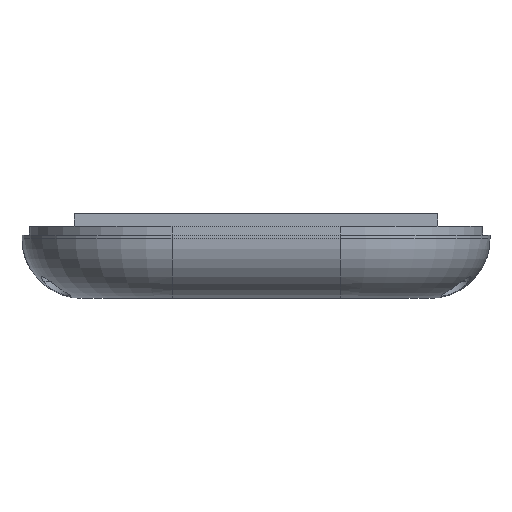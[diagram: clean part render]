
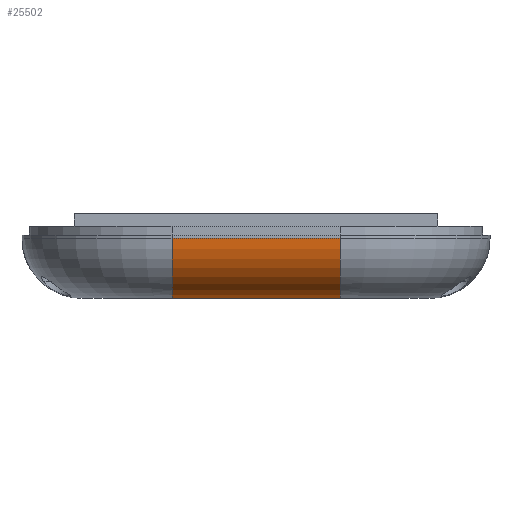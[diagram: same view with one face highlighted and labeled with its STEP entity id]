
A CAD part, front view. The second image highlights one B-rep face of the part: STEP entity #25502.
In plain terms, the highlighted cylindrical face has radius 10 mm (diameter 20 mm), a partial arc.
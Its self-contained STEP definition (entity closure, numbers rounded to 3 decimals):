
#107 = TOROIDAL_SURFACE('',#108,15.,10.);
#108 = AXIS2_PLACEMENT_3D('',#109,#110,#111);
#109 = CARTESIAN_POINT('',(-14.,-50.,-14.));
#110 = DIRECTION('',(0.,0.,-1.));
#111 = DIRECTION('',(-1.,0.,0.));
#1541 = VERTEX_POINT('',#1542);
#1542 = CARTESIAN_POINT('',(-14.,-65.,-24.));
#1557 = PLANE('',#1558);
#1558 = AXIS2_PLACEMENT_3D('',#1559,#1560,#1561);
#1559 = CARTESIAN_POINT('',(0.,0.,-24.));
#1560 = DIRECTION('',(0.,0.,-1.));
#1561 = DIRECTION('',(-1.,0.,0.));
#1573 = EDGE_CURVE('',#1574,#1541,#1576,.T.);
#1574 = VERTEX_POINT('',#1575);
#1575 = CARTESIAN_POINT('',(-14.,-75.,-14.));
#1576 = SURFACE_CURVE('',#1577,(#1582,#1589),.PCURVE_S1.);
#1577 = CIRCLE('',#1578,10.);
#1578 = AXIS2_PLACEMENT_3D('',#1579,#1580,#1581);
#1579 = CARTESIAN_POINT('',(-14.,-65.,-14.));
#1580 = DIRECTION('',(1.,0.,0.));
#1581 = DIRECTION('',(0.,-1.,0.));
#1582 = PCURVE('',#107,#1583);
#1583 = DEFINITIONAL_REPRESENTATION('',(#1584),#1588);
#1584 = LINE('',#1585,#1586);
#1585 = CARTESIAN_POINT('',(4.712,0.));
#1586 = VECTOR('',#1587,1.);
#1587 = DIRECTION('',(0.,1.));
#1588 = ( GEOMETRIC_REPRESENTATION_CONTEXT(2) 
PARAMETRIC_REPRESENTATION_CONTEXT() REPRESENTATION_CONTEXT('2D SPACE',''
  ) );
#1589 = PCURVE('',#1590,#1595);
#1590 = CYLINDRICAL_SURFACE('',#1591,10.);
#1591 = AXIS2_PLACEMENT_3D('',#1592,#1593,#1594);
#1592 = CARTESIAN_POINT('',(7.,-65.,-14.));
#1593 = DIRECTION('',(-1.,0.,0.));
#1594 = DIRECTION('',(-0.,-0.707,-0.707));
#1595 = DEFINITIONAL_REPRESENTATION('',(#1596),#1600);
#1596 = LINE('',#1597,#1598);
#1597 = CARTESIAN_POINT('',(7.069,21.));
#1598 = VECTOR('',#1599,1.);
#1599 = DIRECTION('',(-1.,0.));
#1600 = ( GEOMETRIC_REPRESENTATION_CONTEXT(2) 
PARAMETRIC_REPRESENTATION_CONTEXT() REPRESENTATION_CONTEXT('2D SPACE',''
  ) );
#8598 = VERTEX_POINT('',#8599);
#8599 = CARTESIAN_POINT('',(14.,-65.,-24.));
#8618 = TOROIDAL_SURFACE('',#8619,15.,10.);
#8619 = AXIS2_PLACEMENT_3D('',#8620,#8621,#8622);
#8620 = CARTESIAN_POINT('',(14.,-50.,-14.));
#8621 = DIRECTION('',(0.,0.,-1.));
#8622 = DIRECTION('',(-1.,0.,0.));
#8630 = EDGE_CURVE('',#1541,#8598,#8631,.T.);
#8631 = SURFACE_CURVE('',#8632,(#8636,#8643),.PCURVE_S1.);
#8632 = LINE('',#8633,#8634);
#8633 = CARTESIAN_POINT('',(7.,-65.,-24.));
#8634 = VECTOR('',#8635,1.);
#8635 = DIRECTION('',(1.,0.,0.));
#8636 = PCURVE('',#1557,#8637);
#8637 = DEFINITIONAL_REPRESENTATION('',(#8638),#8642);
#8638 = LINE('',#8639,#8640);
#8639 = CARTESIAN_POINT('',(-7.,-65.));
#8640 = VECTOR('',#8641,1.);
#8641 = DIRECTION('',(-1.,0.));
#8642 = ( GEOMETRIC_REPRESENTATION_CONTEXT(2) 
PARAMETRIC_REPRESENTATION_CONTEXT() REPRESENTATION_CONTEXT('2D SPACE',''
  ) );
#8643 = PCURVE('',#1590,#8644);
#8644 = DEFINITIONAL_REPRESENTATION('',(#8645),#8649);
#8645 = LINE('',#8646,#8647);
#8646 = CARTESIAN_POINT('',(5.498,0.));
#8647 = VECTOR('',#8648,1.);
#8648 = DIRECTION('',(0.,-1.));
#8649 = ( GEOMETRIC_REPRESENTATION_CONTEXT(2) 
PARAMETRIC_REPRESENTATION_CONTEXT() REPRESENTATION_CONTEXT('2D SPACE',''
  ) );
#25502 = ADVANCED_FACE('',(#25503),#1590,.T.);
#25503 = FACE_BOUND('',#25504,.T.);
#25504 = EDGE_LOOP('',(#25505,#25506,#25507,#25531));
#25505 = ORIENTED_EDGE('',*,*,#1573,.T.);
#25506 = ORIENTED_EDGE('',*,*,#8630,.T.);
#25507 = ORIENTED_EDGE('',*,*,#25508,.F.);
#25508 = EDGE_CURVE('',#25509,#8598,#25511,.T.);
#25509 = VERTEX_POINT('',#25510);
#25510 = CARTESIAN_POINT('',(14.,-75.,-14.));
#25511 = SURFACE_CURVE('',#25512,(#25517,#25524),.PCURVE_S1.);
#25512 = CIRCLE('',#25513,10.);
#25513 = AXIS2_PLACEMENT_3D('',#25514,#25515,#25516);
#25514 = CARTESIAN_POINT('',(14.,-65.,-14.));
#25515 = DIRECTION('',(1.,0.,0.));
#25516 = DIRECTION('',(0.,-1.,-0.));
#25517 = PCURVE('',#1590,#25518);
#25518 = DEFINITIONAL_REPRESENTATION('',(#25519),#25523);
#25519 = LINE('',#25520,#25521);
#25520 = CARTESIAN_POINT('',(7.069,-7.));
#25521 = VECTOR('',#25522,1.);
#25522 = DIRECTION('',(-1.,0.));
#25523 = ( GEOMETRIC_REPRESENTATION_CONTEXT(2) 
PARAMETRIC_REPRESENTATION_CONTEXT() REPRESENTATION_CONTEXT('2D SPACE',''
  ) );
#25524 = PCURVE('',#8618,#25525);
#25525 = DEFINITIONAL_REPRESENTATION('',(#25526),#25530);
#25526 = LINE('',#25527,#25528);
#25527 = CARTESIAN_POINT('',(4.712,0.));
#25528 = VECTOR('',#25529,1.);
#25529 = DIRECTION('',(0.,1.));
#25530 = ( GEOMETRIC_REPRESENTATION_CONTEXT(2) 
PARAMETRIC_REPRESENTATION_CONTEXT() REPRESENTATION_CONTEXT('2D SPACE',''
  ) );
#25531 = ORIENTED_EDGE('',*,*,#25532,.T.);
#25532 = EDGE_CURVE('',#25509,#1574,#25533,.T.);
#25533 = SURFACE_CURVE('',#25534,(#25538,#25545),.PCURVE_S1.);
#25534 = LINE('',#25535,#25536);
#25535 = CARTESIAN_POINT('',(7.,-75.,-14.));
#25536 = VECTOR('',#25537,1.);
#25537 = DIRECTION('',(-1.,0.,0.));
#25538 = PCURVE('',#1590,#25539);
#25539 = DEFINITIONAL_REPRESENTATION('',(#25540),#25544);
#25540 = LINE('',#25541,#25542);
#25541 = CARTESIAN_POINT('',(7.069,0.));
#25542 = VECTOR('',#25543,1.);
#25543 = DIRECTION('',(0.,1.));
#25544 = ( GEOMETRIC_REPRESENTATION_CONTEXT(2) 
PARAMETRIC_REPRESENTATION_CONTEXT() REPRESENTATION_CONTEXT('2D SPACE',''
  ) );
#25545 = PCURVE('',#25546,#25551);
#25546 = PLANE('',#25547);
#25547 = AXIS2_PLACEMENT_3D('',#25548,#25549,#25550);
#25548 = CARTESIAN_POINT('',(14.,-75.,-12.));
#25549 = DIRECTION('',(0.,-1.,0.));
#25550 = DIRECTION('',(-1.,0.,0.));
#25551 = DEFINITIONAL_REPRESENTATION('',(#25552),#25556);
#25552 = LINE('',#25553,#25554);
#25553 = CARTESIAN_POINT('',(7.,2.));
#25554 = VECTOR('',#25555,1.);
#25555 = DIRECTION('',(1.,0.));
#25556 = ( GEOMETRIC_REPRESENTATION_CONTEXT(2) 
PARAMETRIC_REPRESENTATION_CONTEXT() REPRESENTATION_CONTEXT('2D SPACE',''
  ) );
